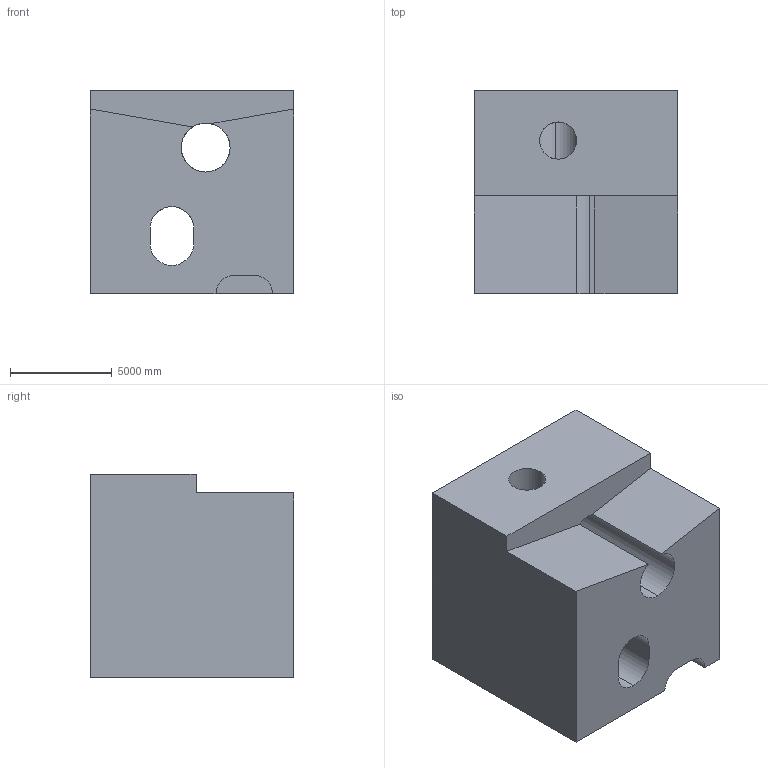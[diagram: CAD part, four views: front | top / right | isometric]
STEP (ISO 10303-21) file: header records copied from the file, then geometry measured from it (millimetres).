
FILE_DESCRIPTION (( 'STEP AP203' ), '1' );
FILE_NAME ('145.STEP', '2022-09-06T13:24:02', ( 'user' ), ( '' ), 'SwSTEP 2.0', 'SolidWorks 2021', '' );
FILE_SCHEMA (( 'CONFIG_CONTROL_DESIGN' ));
Length unit declared in the file: centimetre
Products named in the file (1): 145
Bounding box: 10000 x 10000 x 10000 mm (x, y, z)
Volume: 807528576950.3 mm3; surface area: 750413725.7 mm2
Topology: 1 solids, 1 shells, 22 faces, 66 edges, 44 vertices
Faces by surface type: plane 13, cylinder 9
Entity records: 1520 total; most frequent: CARTESIAN_POINT 820, ORIENTED_EDGE 132, DIRECTION 126, EDGE_CURVE 66, LINE 44, VECTOR 44, VERTEX_POINT 44, AXIS2_PLACEMENT_3D 41
